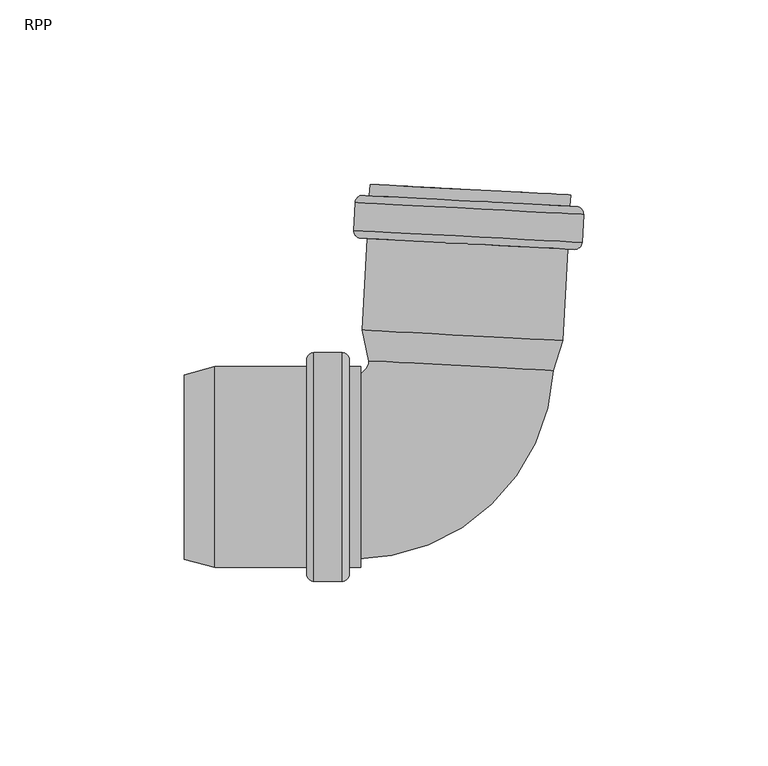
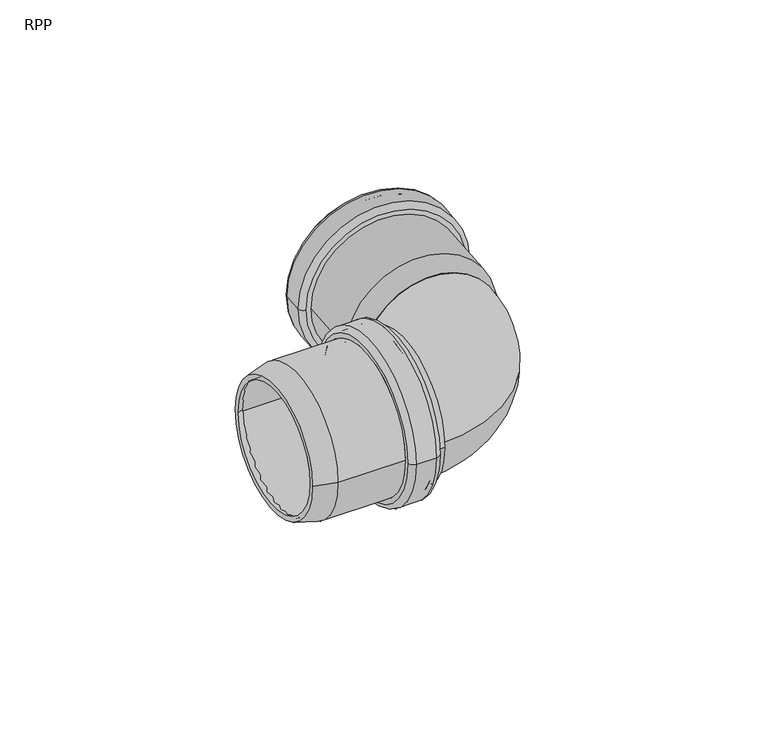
"""IFC4 building model written with IfcOpenShell, lengths in millimetres: pipe fitting geometry, RAUPIANO PLUS Bend : RPP."""

from ifc_helpers import new_model, si_unit, point, frame, origin, place, context, project, spatial, polyline, circle_curve, ellipse_curve, trimmed, source, transform, mapped, element, save
from ifc_brep_helpers import plane_surface, cylinder_surface, revolved_surface, advanced_brep


def rpp_8358bbfe(model_context):
    return source(origin(), model_context, "Body", "AdvancedBrep", [
        advanced_brep(
        [(-38.5199724, -25.3, 0.0), (-38.5199724, 25.3, 0.0), (-65.0593209, 25.3, 0.0), (-65.0593209, -25.3, 0.0), (-38.0199724, -29.1, 0.0), (-38.0199724, 29.1, 0.0), (-38.5199724, 28.6, 0.0), (-38.5199724, -28.6, 0.0), (-31.2199724, -29.1, 0.0), (-31.2199724, 29.1, 0.0), (-30.7199724, -28.6, 0.0), (-30.7199724, 28.6, 0.0), (-25.7199724, -25.3, 0.0), (-25.7199724, 25.3, 0.0), (-30.7199724, 25.3, 0.0), (-30.7199724, -25.3, 0.0), (-28.8199724, -27.2, 0.0), (-28.8199724, 27.2, 0.0), (-25.7199724, 27.2, 0.0), (-25.7199724, -27.2, 0.0), (-30.8199724, -31.0, 0.0), (-30.8199724, 31.0, 0.0), (-28.8199724, 29.0, 0.0), (-28.8199724, -29.0, 0.0), (-38.4199724, -31.0, 0.0), (-38.4199724, 31.0, 0.0), (-40.4199724, -29.0, 0.0), (-40.4199724, 29.0, 0.0), (-65.3094607, -27.2, 0.0), (-65.3094607, 27.2, 0.0), (-40.4199724, 27.2, 0.0), (-40.4199724, -27.2, 0.0), (-73.5199724, -25.0, 0.0), (-73.5199724, 25.0, 0.0), (-73.5199724, 23.0329753, 0.0), (-73.5199724, -23.0329753, 0.0)],
        [
            (0, 1, circle_curve(frame((-38.5199724, 0.0, 0.0), z_axis=(1.0, 0.0, 0.0), x_axis=(0.0, 1.0, 0.0)), 25.3)),
            (1, 2),
            (2, 3, circle_curve(frame((-65.0593209, 0.0, 0.0), z_axis=(-1.0, 0.0, 0.0), x_axis=(0.0, 1.0, 0.0)), 25.3)),
            (3, 0),
            (4, 5, circle_curve(frame((-38.0199724, 0.0, 0.0), z_axis=(1.0, 0.0, 0.0), x_axis=(0.0, 1.0, 0.0)), 29.1)),
            (5, 6, circle_curve(frame((-38.0199724, 28.6, 0.0), z_axis=(0.0, 0.0, 1.0), x_axis=(0.0, -1.0, 0.0)), 0.5)),
            (6, 7, circle_curve(frame((-38.5199724, 0.0, 0.0), z_axis=(-1.0, 0.0, 0.0), x_axis=(0.0, 1.0, 0.0)), 28.6)),
            (7, 4, circle_curve(frame((-38.0199724, -28.6, 0.0), z_axis=(0.0, 0.0, 1.0), x_axis=(0.0, 1.0, 0.0)), 0.5)),
            (8, 9, circle_curve(frame((-31.2199724, 0.0, 0.0), z_axis=(1.0, 0.0, 0.0), x_axis=(0.0, 1.0, 0.0)), 29.1)),
            (9, 5),
            (4, 8),
            (10, 11, circle_curve(frame((-30.7199724, 0.0, 0.0), z_axis=(1.0, 0.0, 0.0), x_axis=(0.0, 1.0, 0.0)), 28.6)),
            (11, 9, circle_curve(frame((-31.2199724, 28.6, 0.0), z_axis=(0.0, 0.0, 1.0), x_axis=(0.0, -1.0, 0.0)), 0.5)),
            (8, 10, circle_curve(frame((-31.2199724, -28.6, 0.0), z_axis=(0.0, 0.0, 1.0), x_axis=(0.0, 1.0, 0.0)), 0.5)),
            (12, 13, circle_curve(frame((-25.7199724, 0.0, 0.0), z_axis=(1.0, 0.0, 0.0), x_axis=(0.0, 1.0, 0.0)), 25.3)),
            (13, 14),
            (14, 15, circle_curve(frame((-30.7199724, 0.0, 0.0), z_axis=(-1.0, 0.0, 0.0), x_axis=(0.0, 1.0, 0.0)), 25.3)),
            (15, 12),
            (16, 17, circle_curve(frame((-28.8199724, 0.0, 0.0), z_axis=(1.0, 0.0, 0.0), x_axis=(0.0, 1.0, 0.0)), 27.2)),
            (17, 18),
            (18, 19, circle_curve(frame((-25.7199724, 0.0, 0.0), z_axis=(-1.0, 0.0, 0.0), x_axis=(0.0, 1.0, 0.0)), 27.2)),
            (19, 16),
            (20, 21, circle_curve(frame((-30.8199724, 0.0, 0.0), z_axis=(1.0, 0.0, 0.0), x_axis=(0.0, 1.0, 0.0)), 31.0)),
            (21, 22, circle_curve(frame((-30.8199724, 29.0, 0.0), z_axis=(0.0, 0.0, -1.0), x_axis=(0.0, -1.0, 0.0)), 2.0)),
            (22, 23, circle_curve(frame((-28.8199724, 0.0, 0.0), z_axis=(-1.0, 0.0, 0.0), x_axis=(0.0, 1.0, 0.0)), 29.0)),
            (23, 20, circle_curve(frame((-30.8199724, -29.0, 0.0), z_axis=(0.0, 0.0, -1.0), x_axis=(0.0, 1.0, 0.0)), 2.0)),
            (24, 25, circle_curve(frame((-38.4199724, 0.0, 0.0), z_axis=(1.0, 0.0, 0.0), x_axis=(0.0, 1.0, 0.0)), 31.0)),
            (25, 21),
            (20, 24),
            (26, 27, circle_curve(frame((-40.4199724, 0.0, 0.0), z_axis=(1.0, 0.0, 0.0), x_axis=(0.0, 1.0, 0.0)), 29.0)),
            (27, 25, circle_curve(frame((-38.4199724, 29.0, 0.0), z_axis=(0.0, 0.0, -1.0), x_axis=(0.0, -1.0, 0.0)), 2.0)),
            (24, 26, circle_curve(frame((-38.4199724, -29.0, 0.0), z_axis=(0.0, 0.0, -1.0), x_axis=(0.0, 1.0, 0.0)), 2.0)),
            (28, 29, circle_curve(frame((-65.3094607, 0.0, 0.0), z_axis=(1.0, 0.0, 0.0), x_axis=(0.0, 1.0, 0.0)), 27.2)),
            (29, 30),
            (30, 31, circle_curve(frame((-40.4199724, 0.0, 0.0), z_axis=(-1.0, 0.0, 0.0), x_axis=(0.0, 1.0, 0.0)), 27.2)),
            (31, 28),
            (32, 33, circle_curve(frame((-73.5199724, 0.0, 0.0), z_axis=(1.0, 0.0, 0.0), x_axis=(0.0, 1.0, 0.0)), 25.0)),
            (33, 29),
            (28, 32),
            (2, 34),
            (34, 35, circle_curve(frame((-73.5199724, 0.0, 0.0), z_axis=(-1.0, 0.0, 0.0), x_axis=(0.0, 1.0, 0.0)), 23.0329753)),
            (35, 3),
            (1, 0, circle_curve(frame((-38.5199724, 0.0, 0.0), z_axis=(1.0, 0.0, 0.0), x_axis=(0.0, -1.0, 0.0)), 25.3)),
            (3, 2, circle_curve(frame((-65.0593209, 0.0, 0.0), z_axis=(-1.0, 0.0, 0.0), x_axis=(0.0, -1.0, 0.0)), 25.3)),
            (6, 7, circle_curve(frame((-38.5199724, 0.0, 0.0), z_axis=(1.0, 0.0, 0.0), x_axis=(0.0, -1.0, 0.0)), 28.6)),
            (5, 4, circle_curve(frame((-38.0199724, 0.0, 0.0), z_axis=(1.0, 0.0, 0.0), x_axis=(0.0, -1.0, 0.0)), 29.1)),
            (9, 8, circle_curve(frame((-31.2199724, 0.0, 0.0), z_axis=(1.0, 0.0, 0.0), x_axis=(0.0, -1.0, 0.0)), 29.1)),
            (11, 10, circle_curve(frame((-30.7199724, 0.0, 0.0), z_axis=(1.0, 0.0, 0.0), x_axis=(0.0, -1.0, 0.0)), 28.6)),
            (14, 15, circle_curve(frame((-30.7199724, 0.0, 0.0), z_axis=(1.0, 0.0, 0.0), x_axis=(0.0, -1.0, 0.0)), 25.3)),
            (13, 12, circle_curve(frame((-25.7199724, 0.0, 0.0), z_axis=(1.0, 0.0, 0.0), x_axis=(0.0, -1.0, 0.0)), 25.3)),
            (18, 19, circle_curve(frame((-25.7199724, 0.0, 0.0), z_axis=(1.0, 0.0, 0.0), x_axis=(0.0, -1.0, 0.0)), 27.2)),
            (17, 16, circle_curve(frame((-28.8199724, 0.0, 0.0), z_axis=(1.0, 0.0, 0.0), x_axis=(0.0, -1.0, 0.0)), 27.2)),
            (22, 23, circle_curve(frame((-28.8199724, 0.0, 0.0), z_axis=(1.0, 0.0, 0.0), x_axis=(0.0, -1.0, 0.0)), 29.0)),
            (21, 20, circle_curve(frame((-30.8199724, 0.0, 0.0), z_axis=(1.0, 0.0, 0.0), x_axis=(0.0, -1.0, 0.0)), 31.0)),
            (25, 24, circle_curve(frame((-38.4199724, 0.0, 0.0), z_axis=(1.0, 0.0, 0.0), x_axis=(0.0, -1.0, 0.0)), 31.0)),
            (27, 26, circle_curve(frame((-40.4199724, 0.0, 0.0), z_axis=(1.0, 0.0, 0.0), x_axis=(0.0, -1.0, 0.0)), 29.0)),
            (30, 31, circle_curve(frame((-40.4199724, 0.0, 0.0), z_axis=(1.0, 0.0, 0.0), x_axis=(0.0, -1.0, 0.0)), 27.2)),
            (29, 28, circle_curve(frame((-65.3094607, 0.0, 0.0), z_axis=(1.0, 0.0, 0.0), x_axis=(0.0, -1.0, 0.0)), 27.2)),
            (33, 32, circle_curve(frame((-73.5199724, 0.0, 0.0), z_axis=(1.0, 0.0, 0.0), x_axis=(0.0, -1.0, 0.0)), 25.0)),
            (34, 35, circle_curve(frame((-73.5199724, 0.0, 0.0), z_axis=(1.0, 0.0, 0.0), x_axis=(0.0, -1.0, 0.0)), 23.0329753)),
        ],
        [
            revolved_surface(polyline([(-65.0593209, 25.3, 0.0), (-38.5199724, 25.3, 0.0)]), (-73.5199724, 0.0, 0.0), (-1.0, 0.0, 0.0)),
            revolved_surface(trimmed(ellipse_curve(frame((-38.0199724, 28.6, 0.0), z_axis=(0.0, 0.0, -1.0), x_axis=(0.0, -1.0, 0.0)), 0.5, 0.5), [point((-38.5199724, 28.6, 0.0))], [point((-38.0199724, 29.1, 0.0))], True, "CARTESIAN"), (-73.5199724, 0.0, 0.0), (-1.0, 0.0, 0.0)),
            revolved_surface(polyline([(-38.0199724, 29.1, 0.0), (-31.219972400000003, 29.1, 0.0)]), (-73.5199724, 0.0, 0.0), (-1.0, 0.0, 0.0)),
            revolved_surface(trimmed(ellipse_curve(frame((-31.2199724, 28.6, 0.0), z_axis=(0.0, 0.0, -1.0), x_axis=(0.0, -1.0, 0.0)), 0.5, 0.5), [point((-31.2199724, 29.1, 0.0))], [point((-30.7199724, 28.6, 0.0))], True, "CARTESIAN"), (-73.5199724, 0.0, 0.0), (-1.0, 0.0, 0.0)),
            revolved_surface(polyline([(-30.719972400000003, 25.3, 0.0), (-25.719972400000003, 25.3, 0.0)]), (-73.5199724, 0.0, 0.0), (-1.0, 0.0, 0.0)),
            cylinder_surface(frame((-73.5199724, 0.0, 0.0), z_axis=(-1.0, 0.0, 0.0), x_axis=(0.0, 1.0, 0.0)), 27.2),
            revolved_surface(trimmed(ellipse_curve(frame((-30.8199724, 29.0, 0.0), z_axis=(0.0, 0.0, 1.0), x_axis=(0.0, -1.0, 0.0)), 2.0, 2.0), [point((-28.8199724, 29.0, 0.0))], [point((-30.8199724, 31.0, 0.0))], True, "CARTESIAN"), (-73.5199724, 0.0, 0.0), (-1.0, 0.0, 0.0)),
            cylinder_surface(frame((-73.5199724, 0.0, 0.0), z_axis=(-1.0, 0.0, 0.0), x_axis=(0.0, 1.0, 0.0)), 31.0),
            revolved_surface(trimmed(ellipse_curve(frame((-38.4199724, 29.0, 0.0), z_axis=(0.0, 0.0, 1.0), x_axis=(0.0, -1.0, 0.0)), 2.0, 2.0), [point((-38.4199724, 31.0, 0.0))], [point((-40.4199724, 29.0, 0.0))], True, "CARTESIAN"), (-73.5199724, 0.0, 0.0), (-1.0, 0.0, 0.0)),
            revolved_surface(polyline([(-65.3094607, 27.2, 0.0), (-73.5199724, 25.0, 0.0)]), (-73.5199724, 0.0, 0.0), (-1.0, 0.0, 0.0)),
            revolved_surface(polyline([(-73.5199724, 23.0329753, 0.0), (-65.0593209, 25.3, 0.0)]), (-73.5199724, 0.0, 0.0), (-1.0, 0.0, 0.0)),
            revolved_surface(polyline([(-65.0593209, -25.3, 0.0), (-38.5199724, -25.3, 0.0)]), (-73.5199724, 0.0, 0.0), (-1.0, 0.0, 0.0)),
            plane_surface(frame((-38.5199724, 0.0, 0.0), z_axis=(1.0, 0.0, 0.0), x_axis=(0.0, -1.0, 0.0))),
            revolved_surface(trimmed(ellipse_curve(frame((-38.0199724, -28.6, 0.0), z_axis=(0.0, 0.0, 1.0), x_axis=(0.0, 1.0, 0.0)), 0.5, 0.5), [point((-38.5199724, -28.6, 0.0))], [point((-38.0199724, -29.1, 0.0))], True, "CARTESIAN"), (-73.5199724, 0.0, 0.0), (-1.0, 0.0, 0.0)),
            revolved_surface(polyline([(-38.0199724, -29.1, 0.0), (-31.219972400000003, -29.1, 0.0)]), (-73.5199724, 0.0, 0.0), (-1.0, 0.0, 0.0)),
            revolved_surface(trimmed(ellipse_curve(frame((-31.2199724, -28.6, 0.0), z_axis=(0.0, 0.0, 1.0), x_axis=(0.0, 1.0, 0.0)), 0.5, 0.5), [point((-31.2199724, -29.1, 0.0))], [point((-30.7199724, -28.6, 0.0))], True, "CARTESIAN"), (-73.5199724, 0.0, 0.0), (-1.0, 0.0, 0.0)),
            plane_surface(frame((-30.7199724, 0.0, 0.0), z_axis=(-1.0, 0.0, 0.0), x_axis=(0.0, -1.0, 0.0))),
            revolved_surface(polyline([(-30.719972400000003, -25.3, 0.0), (-25.719972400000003, -25.3, 0.0)]), (-73.5199724, 0.0, 0.0), (-1.0, 0.0, 0.0)),
            plane_surface(frame((-25.7199724, 0.0, 0.0), z_axis=(1.0, 0.0, 0.0), x_axis=(0.0, -1.0, 0.0))),
            cylinder_surface(frame((-73.5199724, 0.0, 0.0), z_axis=(-1.0, 0.0, 0.0), x_axis=(0.0, -1.0, 0.0)), 27.2),
            plane_surface(frame((-28.8199724, 0.0, 0.0), z_axis=(1.0, 0.0, 0.0), x_axis=(0.0, -1.0, 0.0))),
            revolved_surface(trimmed(ellipse_curve(frame((-30.8199724, -29.0, 0.0), z_axis=(0.0, 0.0, -1.0), x_axis=(0.0, 1.0, 0.0)), 2.0, 2.0), [point((-28.8199724, -29.0, 0.0))], [point((-30.8199724, -31.0, 0.0))], True, "CARTESIAN"), (-73.5199724, 0.0, 0.0), (-1.0, 0.0, 0.0)),
            cylinder_surface(frame((-73.5199724, 0.0, 0.0), z_axis=(-1.0, 0.0, 0.0), x_axis=(0.0, -1.0, 0.0)), 31.0),
            revolved_surface(trimmed(ellipse_curve(frame((-38.4199724, -29.0, 0.0), z_axis=(0.0, 0.0, -1.0), x_axis=(0.0, 1.0, 0.0)), 2.0, 2.0), [point((-38.4199724, -31.0, 0.0))], [point((-40.4199724, -29.0, 0.0))], True, "CARTESIAN"), (-73.5199724, 0.0, 0.0), (-1.0, 0.0, 0.0)),
            plane_surface(frame((-40.4199724, 0.0, 0.0), z_axis=(-1.0, 0.0, 0.0), x_axis=(0.0, -1.0, 0.0))),
            revolved_surface(polyline([(-65.3094607, -27.2, 0.0), (-73.5199724, -25.0, 0.0)]), (-73.5199724, 0.0, 0.0), (-1.0, 0.0, 0.0)),
            plane_surface(frame((-73.5199724, 0.0, 0.0), z_axis=(-1.0, 0.0, 0.0), x_axis=(0.0, -1.0, 0.0))),
            revolved_surface(polyline([(-73.5199724, -23.0329753, 0.0), (-65.0593209, -25.3, 0.0)]), (-73.5199724, 0.0, 0.0), (-1.0, 0.0, 0.0)),
        ],
        [
            (0, [[1, 2, 3, 4]]),
            (1, [[5, 6, 7, 8]]),
            (2, [[9, 10, -5, 11]]),
            (3, [[12, 13, -9, 14]]),
            (4, [[15, 16, 17, 18]]),
            (5, [[19, 20, 21, 22]]),
            (6, [[23, 24, 25, 26]]),
            (7, [[27, 28, -23, 29]]),
            (8, [[30, 31, -27, 32]]),
            (5, [[33, 34, 35, 36]]),
            (9, [[37, 38, -33, 39]]),
            (10, [[-3, 40, 41, 42]]),
            (11, [[43, -4, 44, -2]]),
            (12, [[45, -7], [-43, -1]]),
            (13, [[46, -8, -45, -6]]),
            (14, [[47, -11, -46, -10]]),
            (15, [[48, -14, -47, -13]]),
            (16, [[-48, -12], [49, -17]]),
            (17, [[50, -18, -49, -16]]),
            (18, [[51, -21], [-50, -15]]),
            (19, [[52, -22, -51, -20]]),
            (20, [[53, -25], [-52, -19]]),
            (21, [[54, -26, -53, -24]]),
            (22, [[55, -29, -54, -28]]),
            (23, [[56, -32, -55, -31]]),
            (24, [[-56, -30], [57, -35]]),
            (19, [[58, -36, -57, -34]]),
            (25, [[59, -39, -58, -38]]),
            (26, [[-59, -37], [60, -41]]),
            (27, [[-44, -42, -60, -40]]),
        ],
    ),
        advanced_brep(
        [(24.4416934, 26.2768045, 0.0), (-21.5611253, 28.6877101, 0.0), (-23.3822469, 37.2554135, 0.0), (27.1484076, 34.6072141, 0.0), (29.0327124, 34.2579788, 0.0), (-25.2927343, 37.1050548, 0.0), (-23.5254543, 28.7906562, 0.0), (26.4060224, 26.1738584, 0.0), (30.3353276, 59.1133569, 0.0), (-23.9901191, 61.9604329, 0.0), (34.632545, 68.5013238, 0.0), (-27.2824862, 71.746153, 0.0), (-27.6802394, 64.1565686, 0.0), (34.2347917, 60.9117393, 0.0), (31.1046661, 73.793211, 0.0), (-23.2207806, 76.640287, 0.0), (-23.383022, 73.5445355, 0.0), (30.9424247, 70.6974595, 0.0), (28.9455902, 68.8995017, 0.0), (-21.5850642, 71.547701, 0.0), (-21.3233844, 76.5408487, 0.0), (29.20727, 73.8926493, 0.0), (32.35833, 61.4106294, 0.0), (-25.7619089, 64.4565821, 0.0), (-25.4060244, 71.2472629, 0.0), (32.7142145, 68.2013103, 0.0), (-21.9932847, 63.7583907, 0.0), (28.5373698, 61.1101913, 0.0), (-25.7876523, 62.0546376, 0.0), (32.1328607, 59.0191521, 0.0), (32.7399578, 70.6032547, 0.0), (-25.1805552, 73.6387402, 0.0), (-24.8805417, 71.7204097, 0.0), (32.2410677, 68.726793, 0.0), (31.8328472, 60.9374826, 0.0), (-25.2887622, 63.9310993, 0.0)],
        [
            (0, 1, circle_curve(frame((1.4402841, 27.4822573, 0.0), z_axis=(-0.05233595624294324, -0.9986295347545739, 0.0), x_axis=(-0.9986295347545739, 0.05233595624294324, 0.0)), 23.0329753)),
            (1, 2),
            (2, 3, circle_curve(frame((1.8830804, 35.9313138, 0.0), z_axis=(0.05233595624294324, 0.9986295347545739, 0.0), x_axis=(-0.9986295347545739, 0.05233595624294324, 0.0)), 25.3)),
            (3, 0),
            (4, 5, circle_curve(frame((1.8699891, 35.6815168, 0.0), z_axis=(-0.05233595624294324, -0.9986295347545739, 0.0), x_axis=(-0.9986295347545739, 0.05233595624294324, 0.0)), 27.2)),
            (5, 6),
            (6, 7, circle_curve(frame((1.4402841, 27.4822573, 0.0), z_axis=(0.05233595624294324, 0.9986295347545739, 0.0), x_axis=(-0.9986295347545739, 0.05233595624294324, 0.0)), 25.0)),
            (7, 4),
            (8, 9, circle_curve(frame((3.1726042, 60.5368949, 0.0), z_axis=(-0.05233595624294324, -0.9986295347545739, 0.0), x_axis=(-0.9986295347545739, 0.05233595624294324, 0.0)), 27.2)),
            (9, 5),
            (4, 8),
            (10, 11, circle_curve(frame((3.6750294, 70.1237384, 0.0), z_axis=(-0.05233595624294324, -0.9986295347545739, 0.0), x_axis=(-0.9986295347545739, 0.05233595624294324, 0.0)), 31.0)),
            (11, 12),
            (12, 13, circle_curve(frame((3.2772761, 62.5341539, 0.0), z_axis=(0.05233595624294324, 0.9986295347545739, 0.0), x_axis=(-0.9986295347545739, 0.05233595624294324, 0.0)), 31.0)),
            (13, 10),
            (14, 15, circle_curve(frame((3.9419428, 75.216749, 0.0), z_axis=(-0.05233595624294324, -0.9986295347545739, 0.0), x_axis=(-0.9986295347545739, 0.05233595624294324, 0.0)), 27.2)),
            (15, 16),
            (16, 17, circle_curve(frame((3.7797013, 72.1209975, 0.0), z_axis=(0.05233595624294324, 0.9986295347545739, 0.0), x_axis=(-0.9986295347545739, 0.05233595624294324, 0.0)), 27.2)),
            (17, 14),
            (18, 19, circle_curve(frame((3.680263, 70.2236014, 0.0), z_axis=(-0.05233595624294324, -0.9986295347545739, 0.0), x_axis=(-0.9986295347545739, 0.05233595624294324, 0.0)), 25.3)),
            (19, 20),
            (20, 21, circle_curve(frame((3.9419428, 75.216749, 0.0), z_axis=(0.05233595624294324, 0.9986295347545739, 0.0), x_axis=(-0.9986295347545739, 0.05233595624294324, 0.0)), 25.3)),
            (21, 18),
            (22, 23, circle_curve(frame((3.2982105, 62.9336058, 0.0), z_axis=(-0.05233595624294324, -0.9986295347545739, 0.0), x_axis=(-0.9986295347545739, 0.05233595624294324, 0.0)), 29.1)),
            (23, 24),
            (24, 25, circle_curve(frame((3.654095, 69.7242866, 0.0), z_axis=(0.05233595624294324, 0.9986295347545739, 0.0), x_axis=(-0.9986295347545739, 0.05233595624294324, 0.0)), 29.1)),
            (25, 22),
            (2, 26),
            (26, 27, circle_curve(frame((3.2720425, 62.434291, 0.0), z_axis=(0.05233595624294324, 0.9986295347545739, 0.0), x_axis=(-0.9986295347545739, 0.05233595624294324, 0.0)), 25.3)),
            (27, 3),
            (1, 0, circle_curve(frame((1.4402841, 27.4822573, 0.0), z_axis=(-0.05233595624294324, -0.9986295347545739, 0.0), x_axis=(0.9986295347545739, -0.05233595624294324, 0.0)), 23.0329753)),
            (3, 2, circle_curve(frame((1.8830804, 35.9313138, 0.0), z_axis=(0.05233595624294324, 0.9986295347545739, 0.0), x_axis=(0.9986295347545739, -0.05233595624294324, 0.0)), 25.3)),
            (6, 7, circle_curve(frame((1.4402841, 27.4822573, 0.0), z_axis=(-0.05233595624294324, -0.9986295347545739, 0.0), x_axis=(0.9986295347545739, -0.05233595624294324, 0.0)), 25.0)),
            (5, 4, circle_curve(frame((1.8699891, 35.6815168, 0.0), z_axis=(-0.05233595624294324, -0.9986295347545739, 0.0), x_axis=(0.9986295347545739, -0.05233595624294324, 0.0)), 27.2)),
            (9, 8, circle_curve(frame((3.1726042, 60.5368949, 0.0), z_axis=(-0.05233595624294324, -0.9986295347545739, 0.0), x_axis=(0.9986295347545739, -0.05233595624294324, 0.0)), 27.2)),
            (28, 29, circle_curve(frame((3.1726042, 60.5368949, 0.0), z_axis=(-0.05233595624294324, -0.9986295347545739, 0.0), x_axis=(0.9986295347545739, -0.05233595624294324, 0.0)), 29.0)),
            (29, 28, circle_curve(frame((3.1726042, 60.5368949, 0.0), z_axis=(-0.05233595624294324, -0.9986295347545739, 0.0), x_axis=(-0.9986295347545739, 0.05233595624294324, 0.0)), 29.0)),
            (11, 10, circle_curve(frame((3.6750294, 70.1237384, 0.0), z_axis=(-0.05233595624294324, -0.9986295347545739, 0.0), x_axis=(0.9986295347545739, -0.05233595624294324, 0.0)), 31.0)),
            (13, 12, circle_curve(frame((3.2772761, 62.5341539, 0.0), z_axis=(0.05233595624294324, 0.9986295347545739, 0.0), x_axis=(0.9986295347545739, -0.05233595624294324, 0.0)), 31.0)),
            (30, 31, circle_curve(frame((3.7797013, 72.1209975, 0.0), z_axis=(0.05233595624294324, 0.9986295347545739, 0.0), x_axis=(0.9986295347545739, -0.05233595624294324, 0.0)), 29.0)),
            (31, 30, circle_curve(frame((3.7797013, 72.1209975, 0.0), z_axis=(0.05233595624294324, 0.9986295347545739, 0.0), x_axis=(-0.9986295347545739, 0.05233595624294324, 0.0)), 29.0)),
            (16, 17, circle_curve(frame((3.7797013, 72.1209975, 0.0), z_axis=(-0.05233595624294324, -0.9986295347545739, 0.0), x_axis=(0.9986295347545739, -0.05233595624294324, 0.0)), 27.2)),
            (15, 14, circle_curve(frame((3.9419428, 75.216749, 0.0), z_axis=(-0.05233595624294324, -0.9986295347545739, 0.0), x_axis=(0.9986295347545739, -0.05233595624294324, 0.0)), 27.2)),
            (20, 21, circle_curve(frame((3.9419428, 75.216749, 0.0), z_axis=(-0.05233595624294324, -0.9986295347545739, 0.0), x_axis=(0.9986295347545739, -0.05233595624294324, 0.0)), 25.3)),
            (19, 18, circle_curve(frame((3.680263, 70.2236014, 0.0), z_axis=(-0.05233595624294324, -0.9986295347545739, 0.0), x_axis=(0.9986295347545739, -0.05233595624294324, 0.0)), 25.3)),
            (32, 33, circle_curve(frame((3.680263, 70.2236014, 0.0), z_axis=(-0.05233595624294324, -0.9986295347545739, 0.0), x_axis=(0.9986295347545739, -0.05233595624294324, 0.0)), 28.6)),
            (33, 32, circle_curve(frame((3.680263, 70.2236014, 0.0), z_axis=(-0.05233595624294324, -0.9986295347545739, 0.0), x_axis=(-0.9986295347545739, 0.05233595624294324, 0.0)), 28.6)),
            (23, 22, circle_curve(frame((3.2982105, 62.9336058, 0.0), z_axis=(-0.05233595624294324, -0.9986295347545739, 0.0), x_axis=(0.9986295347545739, -0.05233595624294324, 0.0)), 29.1)),
            (25, 24, circle_curve(frame((3.654095, 69.7242866, 0.0), z_axis=(0.05233595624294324, 0.9986295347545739, 0.0), x_axis=(0.9986295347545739, -0.05233595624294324, 0.0)), 29.1)),
            (34, 35, circle_curve(frame((3.2720425, 62.434291, 0.0), z_axis=(0.05233595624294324, 0.9986295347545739, 0.0), x_axis=(0.9986295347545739, -0.05233595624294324, 0.0)), 28.6)),
            (35, 34, circle_curve(frame((3.2720425, 62.434291, 0.0), z_axis=(0.05233595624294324, 0.9986295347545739, 0.0), x_axis=(-0.9986295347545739, 0.05233595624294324, 0.0)), 28.6)),
            (26, 27, circle_curve(frame((3.2720425, 62.434291, 0.0), z_axis=(-0.05233595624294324, -0.9986295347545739, 0.0), x_axis=(0.9986295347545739, -0.05233595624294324, 0.0)), 25.3)),
            (12, 28, circle_curve(frame((-25.6829804, 64.0518967, 0.0), z_axis=(0.0, 0.0, 1.0), x_axis=(0.9986295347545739, -0.05233595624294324, 0.0)), 2.0)),
            (29, 13, circle_curve(frame((32.2375326, 61.0164112, 0.0), z_axis=(0.0, 0.0, 1.0), x_axis=(-0.9986295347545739, 0.05233595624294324, 0.0)), 2.0)),
            (31, 11, circle_curve(frame((-25.2852271, 71.6414811, 0.0), z_axis=(0.0, 0.0, 1.0), x_axis=(0.9986295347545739, -0.05233595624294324, 0.0)), 2.0)),
            (10, 30, circle_curve(frame((32.6352859, 68.6059957, 0.0), z_axis=(0.0, 0.0, 1.0), x_axis=(-0.9986295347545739, 0.05233595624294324, 0.0)), 2.0)),
            (24, 32, circle_curve(frame((-24.9067097, 71.2210949, 0.0), z_axis=(0.0, 0.0, -1.0), x_axis=(0.9986295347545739, -0.05233595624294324, 0.0)), 0.5)),
            (33, 25, circle_curve(frame((32.2148997, 68.2274782, 0.0), z_axis=(0.0, 0.0, -1.0), x_axis=(-0.9986295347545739, 0.05233595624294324, 0.0)), 0.5)),
            (35, 23, circle_curve(frame((-25.2625942, 64.4304141, 0.0), z_axis=(0.0, 0.0, -1.0), x_axis=(0.9986295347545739, -0.05233595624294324, 0.0)), 0.5)),
            (22, 34, circle_curve(frame((31.8590152, 61.4367974, 0.0), z_axis=(0.0, 0.0, -1.0), x_axis=(-0.9986295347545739, 0.05233595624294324, 0.0)), 0.5)),
        ],
        [
            revolved_surface(polyline([(-23.3822469, 37.2554135, 0.0), (-21.5611253, 28.6877101, 0.0)]), (1.4402841, 27.4822573, 0.0), (0.05233595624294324, 0.9986295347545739, 0.0)),
            revolved_surface(polyline([(-23.5254543, 28.7906562, 0.0), (-25.2927343, 37.1050548, 0.0)]), (1.4402841, 27.4822573, 0.0), (0.05233595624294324, 0.9986295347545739, 0.0)),
            cylinder_surface(frame((1.4402841, 27.4822573, 0.0), z_axis=(0.05233595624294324, 0.9986295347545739, 0.0), x_axis=(-0.9986295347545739, 0.05233595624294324, 0.0)), 27.2),
            cylinder_surface(frame((1.4402841, 27.4822573, 0.0), z_axis=(0.05233595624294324, 0.9986295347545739, 0.0), x_axis=(-0.9986295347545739, 0.05233595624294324, 0.0)), 31.0),
            revolved_surface(polyline([(-21.32338442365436, 76.54084870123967, 0.0), (-21.58506420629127, 71.54770100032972, 0.0)]), (1.4402841, 27.4822573, 0.0), (0.05233595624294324, 0.9986295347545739, 0.0)),
            revolved_surface(polyline([(-25.406024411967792, 71.247262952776, 0.0), (-25.761908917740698, 64.45658205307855, 0.0)]), (1.4402841, 27.4822573, 0.0), (0.05233595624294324, 0.9986295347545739, 0.0)),
            revolved_surface(polyline([(-21.993284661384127, 63.758390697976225, 0.0), (-23.382246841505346, 37.25541348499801, 0.0)]), (1.4402841, 27.4822573, 0.0), (0.05233595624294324, 0.9986295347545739, 0.0)),
            revolved_surface(polyline([(27.1484076, 34.6072141, 0.0), (24.4416934, 26.2768045, 0.0)]), (1.4402841, 27.4822573, 0.0), (0.05233595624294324, 0.9986295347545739, 0.0)),
            plane_surface(frame((1.4402841, 27.4822573, 0.0), z_axis=(-0.05233595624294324, -0.9986295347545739, 0.0), x_axis=(0.9986295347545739, -0.05233595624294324, 0.0))),
            revolved_surface(polyline([(26.4060224, 26.1738584, 0.0), (29.0327124, 34.2579788, 0.0)]), (1.4402841, 27.4822573, 0.0), (0.05233595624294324, 0.9986295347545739, 0.0)),
            cylinder_surface(frame((1.4402841, 27.4822573, 0.0), z_axis=(0.05233595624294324, 0.9986295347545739, 0.0), x_axis=(0.9986295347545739, -0.05233595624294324, 0.0)), 27.2),
            plane_surface(frame((3.1726042, 60.5368949, 0.0), z_axis=(-0.05233595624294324, -0.9986295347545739, 0.0), x_axis=(0.9986295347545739, -0.05233595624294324, 0.0))),
            cylinder_surface(frame((1.4402841, 27.4822573, 0.0), z_axis=(0.05233595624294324, 0.9986295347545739, 0.0), x_axis=(0.9986295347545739, -0.05233595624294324, 0.0)), 31.0),
            plane_surface(frame((3.7797013, 72.1209975, 0.0), z_axis=(0.05233595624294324, 0.9986295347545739, 0.0), x_axis=(0.9986295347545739, -0.05233595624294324, 0.0))),
            plane_surface(frame((3.9419428, 75.216749, 0.0), z_axis=(0.05233595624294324, 0.9986295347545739, 0.0), x_axis=(0.9986295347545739, -0.05233595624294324, 0.0))),
            revolved_surface(polyline([(29.207270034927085, 73.89264931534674, 0.0), (28.945590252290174, 68.89950161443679, 0.0)]), (1.4402841, 27.4822573, 0.0), (0.05233595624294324, 0.9986295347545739, 0.0)),
            plane_surface(frame((3.680263, 70.2236014, 0.0), z_axis=(-0.05233595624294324, -0.9986295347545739, 0.0), x_axis=(0.9986295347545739, -0.05233595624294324, 0.0))),
            revolved_surface(polyline([(32.71421451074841, 68.2013102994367, 0.0), (32.35833000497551, 61.41062939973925, 0.0)]), (1.4402841, 27.4822573, 0.0), (0.05233595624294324, 0.9986295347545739, 0.0)),
            plane_surface(frame((3.2720425, 62.434291, 0.0), z_axis=(0.05233595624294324, 0.9986295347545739, 0.0), x_axis=(0.9986295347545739, -0.05233595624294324, 0.0))),
            revolved_surface(polyline([(28.537369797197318, 61.1101913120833, 0.0), (27.1484076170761, 34.60721409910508, 0.0)]), (1.4402841, 27.4822573, 0.0), (0.05233595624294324, 0.9986295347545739, 0.0)),
            revolved_surface(trimmed(ellipse_curve(frame((-25.6829804, 64.0518967, 0.0), z_axis=(0.0, 0.0, -1.0), x_axis=(0.9986295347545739, -0.05233595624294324, 0.0)), 2.0, 2.0), [point((-25.7876523, 62.0546376, 0.0))], [point((-27.6802394, 64.1565686, 0.0))], True, "CARTESIAN"), (1.4402841, 27.4822573, 0.0), (0.05233595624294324, 0.9986295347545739, 0.0)),
            revolved_surface(trimmed(ellipse_curve(frame((-25.2852271, 71.6414811, 0.0), z_axis=(0.0, 0.0, -1.0), x_axis=(0.9986295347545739, -0.05233595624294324, 0.0)), 2.0, 2.0), [point((-27.2824862, 71.746153, 0.0))], [point((-25.1805552, 73.6387402, 0.0))], True, "CARTESIAN"), (1.4402841, 27.4822573, 0.0), (0.05233595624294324, 0.9986295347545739, 0.0)),
            revolved_surface(trimmed(ellipse_curve(frame((-24.9067097, 71.2210949, 0.0), z_axis=(0.0, 0.0, 1.0), x_axis=(0.9986295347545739, -0.05233595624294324, 0.0)), 0.5, 0.5), [point((-24.8805417, 71.7204097, 0.0))], [point((-25.4060244, 71.2472629, 0.0))], True, "CARTESIAN"), (1.4402841, 27.4822573, 0.0), (0.05233595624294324, 0.9986295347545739, 0.0)),
            revolved_surface(trimmed(ellipse_curve(frame((-25.2625942, 64.4304141, 0.0), z_axis=(0.0, 0.0, 1.0), x_axis=(0.9986295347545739, -0.05233595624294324, 0.0)), 0.5, 0.5), [point((-25.7619089, 64.4565821, 0.0))], [point((-25.2887622, 63.9310993, 0.0))], True, "CARTESIAN"), (1.4402841, 27.4822573, 0.0), (0.05233595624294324, 0.9986295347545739, 0.0)),
            revolved_surface(trimmed(ellipse_curve(frame((32.2375326, 61.0164112, 0.0), z_axis=(0.0, 0.0, 1.0), x_axis=(-0.9986295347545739, 0.05233595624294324, 0.0)), 2.0, 2.0), [point((32.1328607, 59.0191521, 0.0))], [point((34.2347917, 60.9117393, 0.0))], True, "CARTESIAN"), (1.4402841, 27.4822573, 0.0), (0.05233595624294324, 0.9986295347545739, 0.0)),
            revolved_surface(trimmed(ellipse_curve(frame((32.6352859, 68.6059957, 0.0), z_axis=(0.0, 0.0, 1.0), x_axis=(-0.9986295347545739, 0.05233595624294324, 0.0)), 2.0, 2.0), [point((34.632545, 68.5013238, 0.0))], [point((32.7399578, 70.6032547, 0.0))], True, "CARTESIAN"), (1.4402841, 27.4822573, 0.0), (0.05233595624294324, 0.9986295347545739, 0.0)),
            revolved_surface(trimmed(ellipse_curve(frame((32.2148997, 68.2274782, 0.0), z_axis=(0.0, 0.0, -1.0), x_axis=(-0.9986295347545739, 0.05233595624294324, 0.0)), 0.5, 0.5), [point((32.2410677, 68.726793, 0.0))], [point((32.7142145, 68.2013103, 0.0))], True, "CARTESIAN"), (1.4402841, 27.4822573, 0.0), (0.05233595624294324, 0.9986295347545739, 0.0)),
            revolved_surface(trimmed(ellipse_curve(frame((31.8590152, 61.4367974, 0.0), z_axis=(0.0, 0.0, -1.0), x_axis=(-0.9986295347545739, 0.05233595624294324, 0.0)), 0.5, 0.5), [point((32.35833, 61.4106294, 0.0))], [point((31.8328472, 60.9374826, 0.0))], True, "CARTESIAN"), (1.4402841, 27.4822573, 0.0), (0.05233595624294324, 0.9986295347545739, 0.0)),
        ],
        [
            (0, [[1, 2, 3, 4]]),
            (1, [[5, 6, 7, 8]]),
            (2, [[9, 10, -5, 11]]),
            (3, [[12, 13, 14, 15]]),
            (2, [[16, 17, 18, 19]]),
            (4, [[20, 21, 22, 23]]),
            (5, [[24, 25, 26, 27]]),
            (6, [[-3, 28, 29, 30]]),
            (7, [[31, -4, 32, -2]]),
            (8, [[33, -7], [-31, -1]]),
            (9, [[34, -8, -33, -6]]),
            (10, [[35, -11, -34, -10]]),
            (11, [[36, 37], [-35, -9]]),
            (12, [[38, -15, 39, -13]]),
            (13, [[40, 41], [42, -18]]),
            (10, [[43, -19, -42, -17]]),
            (14, [[-43, -16], [44, -22]]),
            (15, [[45, -23, -44, -21]]),
            (16, [[46, 47], [-45, -20]]),
            (17, [[48, -27, 49, -25]]),
            (18, [[50, 51], [52, -29]]),
            (19, [[-32, -30, -52, -28]]),
            (20, [[-14, 53, -37, 54]]),
            (21, [[-41, 55, -12, 56]]),
            (22, [[-26, 57, -47, 58]]),
            (23, [[-51, 59, -24, 60]]),
            (24, [[-39, -54, -36, -53]]),
            (25, [[-40, -56, -38, -55]]),
            (26, [[-49, -58, -46, -57]]),
            (27, [[-50, -60, -48, -59]]),
        ],
    ),
        advanced_brep(
        [(-27.5199724, 23.2, 0.0), (-27.5199724, -23.2, 0.0), (-73.5199724, -23.2, 0.0), (-73.5199724, 23.2, 0.0), (-69.7879216, 25.0, 0.0), (-69.7879216, -25.0, 0.0), (-27.5199724, -25.0, 0.0), (-27.5199724, 25.0, 0.0), (-73.5199724, 24.0, 0.0), (-73.5199724, -24.0, 0.0)],
        [
            (0, 1, circle_curve(frame((-27.5199724, 0.0, 0.0), z_axis=(1.0, 0.0, 0.0), x_axis=(0.0, -1.0, 0.0)), 23.2)),
            (1, 2),
            (2, 3, circle_curve(frame((-73.5199724, 0.0, 0.0), z_axis=(-1.0, 0.0, 0.0), x_axis=(0.0, -1.0, 0.0)), 23.2)),
            (3, 0),
            (4, 5, circle_curve(frame((-69.7879216, 0.0, 0.0), z_axis=(1.0, 0.0, 0.0), x_axis=(0.0, -1.0, 0.0)), 25.0)),
            (5, 6),
            (6, 7, circle_curve(frame((-27.5199724, 0.0, 0.0), z_axis=(-1.0, 0.0, 0.0), x_axis=(0.0, -1.0, 0.0)), 25.0)),
            (7, 4),
            (8, 9, circle_curve(frame((-73.5199724, 0.0, 0.0), z_axis=(1.0, 0.0, 0.0), x_axis=(0.0, -1.0, 0.0)), 24.0)),
            (9, 5),
            (4, 8),
            (1, 0, circle_curve(frame((-27.5199724, 0.0, 0.0), z_axis=(1.0, 0.0, 0.0), x_axis=(0.0, 1.0, 0.0)), 23.2)),
            (3, 2, circle_curve(frame((-73.5199724, 0.0, 0.0), z_axis=(-1.0, 0.0, 0.0), x_axis=(0.0, 1.0, 0.0)), 23.2)),
            (6, 7, circle_curve(frame((-27.5199724, 0.0, 0.0), z_axis=(1.0, 0.0, 0.0), x_axis=(0.0, 1.0, 0.0)), 25.0)),
            (5, 4, circle_curve(frame((-69.7879216, 0.0, 0.0), z_axis=(1.0, 0.0, 0.0), x_axis=(0.0, 1.0, 0.0)), 25.0)),
            (9, 8, circle_curve(frame((-73.5199724, 0.0, 0.0), z_axis=(1.0, 0.0, 0.0), x_axis=(0.0, 1.0, 0.0)), 24.0)),
        ],
        [
            revolved_surface(polyline([(-73.5199724, -23.2, 0.0), (-27.5199724, -23.2, 0.0)]), (-27.5199724, 0.0, 0.0), (-1.0, 0.0, 0.0)),
            cylinder_surface(frame((-27.5199724, 0.0, 0.0), z_axis=(-1.0, 0.0, 0.0), x_axis=(0.0, -1.0, 0.0)), 25.0),
            revolved_surface(polyline([(-69.7879216, -25.0, 0.0), (-73.5199724, -24.0, 0.0)]), (-27.5199724, 0.0, 0.0), (-1.0, 0.0, 0.0)),
            revolved_surface(polyline([(-73.5199724, 23.2, 0.0), (-27.5199724, 23.2, 0.0)]), (-27.5199724, 0.0, 0.0), (-1.0, 0.0, 0.0)),
            plane_surface(frame((-27.5199724, 0.0, 0.0), z_axis=(1.0, 0.0, 0.0), x_axis=(0.0, 1.0, 0.0))),
            cylinder_surface(frame((-27.5199724, 0.0, 0.0), z_axis=(-1.0, 0.0, 0.0), x_axis=(0.0, 1.0, 0.0)), 25.0),
            revolved_surface(polyline([(-69.7879216, 25.0, 0.0), (-73.5199724, 24.0, 0.0)]), (-27.5199724, 0.0, 0.0), (-1.0, 0.0, 0.0)),
            plane_surface(frame((-73.5199724, 0.0, 0.0), z_axis=(-1.0, 0.0, 0.0), x_axis=(0.0, 1.0, 0.0))),
        ],
        [
            (0, [[1, 2, 3, 4]]),
            (1, [[5, 6, 7, 8]]),
            (2, [[9, 10, -5, 11]]),
            (3, [[12, -4, 13, -2]]),
            (4, [[14, -7], [-12, -1]]),
            (5, [[15, -8, -14, -6]]),
            (6, [[16, -11, -15, -10]]),
            (7, [[-16, -9], [-13, -3]]),
        ],
    ),
        advanced_brep(
        [(-27.5199724, -25.0, 0.0), (-27.5199724, 25.0, 0.0), (-27.5199724, -23.2, 0.0), (-27.5199724, 23.2, 0.0), (26.4060224, 26.1738584, 0.0), (-23.5254543, 28.7906562, 0.0), (24.6084893, 26.2680631, 0.0), (-21.7279211, 28.6964515, 0.0)],
        [
            (0, 1, circle_curve(frame((-27.5199724, 0.0, 0.0), z_axis=(-1.0, 0.0, 0.0), x_axis=(0.0, 1.0, 0.0)), 25.0)),
            (1, 0, circle_curve(frame((-27.5199724, 0.0, 0.0), z_axis=(-1.0, 0.0, 0.0), x_axis=(0.0, 1.0, 0.0)), 25.0)),
            (2, 3, circle_curve(frame((-27.5199724, 0.0, 0.0), z_axis=(1.0, 0.0, 0.0), x_axis=(0.0, 1.0, 0.0)), 23.2)),
            (3, 2, circle_curve(frame((-27.5199724, 0.0, 0.0), z_axis=(1.0, 0.0, 0.0), x_axis=(0.0, 1.0, 0.0)), 23.2)),
            (4, 5, circle_curve(frame((1.4402841, 27.4822573, 0.0), z_axis=(0.05233595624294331, 0.9986295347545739, 0.0), x_axis=(-0.9986295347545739, 0.05233595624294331, 0.0)), 25.0)),
            (5, 4, circle_curve(frame((1.4402841, 27.4822573, 0.0), z_axis=(0.05233595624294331, 0.9986295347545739, 0.0), x_axis=(-0.9986295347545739, 0.05233595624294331, 0.0)), 25.0)),
            (6, 7, circle_curve(frame((1.4402841, 27.4822573, 0.0), z_axis=(-0.05233595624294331, -0.9986295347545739, 0.0), x_axis=(-0.9986295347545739, 0.05233595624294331, 0.0)), 23.2)),
            (7, 6, circle_curve(frame((1.4402841, 27.4822573, 0.0), z_axis=(-0.05233595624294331, -0.9986295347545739, 0.0), x_axis=(-0.9986295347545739, 0.05233595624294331, 0.0)), 23.2)),
            (7, 3, circle_curve(frame((-27.5199724, 29.0, 0.0), z_axis=(0.0, 0.0, -1.0), x_axis=(0.0, -1.0, 0.0)), 5.8)),
            (2, 6, circle_curve(frame((-27.5199724, 29.0, 0.0), z_axis=(0.0, 0.0, 1.0), x_axis=(0.0, -1.0, 0.0)), 52.2)),
            (5, 1, circle_curve(frame((-27.5199724, 29.0, 0.0), z_axis=(0.0, 0.0, -1.0), x_axis=(0.0, -1.0, 0.0)), 4.0)),
            (0, 4, circle_curve(frame((-27.5199724, 29.0, 0.0), z_axis=(0.0, 0.0, 1.0), x_axis=(0.0, -1.0, 0.0)), 54.0)),
        ],
        [
            plane_surface(frame((-27.5199724, 0.0, 0.0), z_axis=(-1.0, 0.0, 0.0), x_axis=(0.0, 0.0, 1.0))),
            plane_surface(frame((1.4402841, 27.4822573, 0.0), z_axis=(0.05233595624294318, 0.9986295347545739, 0.0), x_axis=(0.0, 0.0, 1.0))),
            revolved_surface(trimmed(ellipse_curve(frame((-27.5199724, 0.0, 0.0), z_axis=(1.0, 0.0, 0.0), x_axis=(0.0, 1.0, 0.0)), 23.2, 23.2), [point((-27.5199724, -23.2, 0.0))], [point((-27.5199724, 23.2, 0.0))], True, "CARTESIAN"), (-27.5199724, 29.0, 0.0), (0.0, 0.0, 1.0)),
            revolved_surface(trimmed(ellipse_curve(frame((-27.5199724, 0.0, 0.0), z_axis=(1.0, 0.0, 0.0), x_axis=(0.0, 1.0, 0.0)), 23.2, 23.2), [point((-27.5199724, 23.2, 0.0))], [point((-27.5199724, -23.2, 0.0))], True, "CARTESIAN"), (-27.5199724, 29.0, 0.0), (0.0, 0.0, 1.0)),
            revolved_surface(trimmed(ellipse_curve(frame((-27.5199724, 0.0, 0.0), z_axis=(-1.0, 0.0, 0.0), x_axis=(0.0, 1.0, 0.0)), 25.0, 25.0), [point((-27.5199724, -25.0, 0.0))], [point((-27.5199724, 25.0, 0.0))], True, "CARTESIAN"), (-27.5199724, 29.0, 0.0), (0.0, 0.0, 1.0)),
            revolved_surface(trimmed(ellipse_curve(frame((-27.5199724, 0.0, 0.0), z_axis=(-1.0, 0.0, 0.0), x_axis=(0.0, 1.0, 0.0)), 25.0, 25.0), [point((-27.5199724, 25.0, 0.0))], [point((-27.5199724, -25.0, 0.0))], True, "CARTESIAN"), (-27.5199724, 29.0, 0.0), (0.0, 0.0, 1.0)),
        ],
        [
            (0, [[1, 2], [3, 4]]),
            (1, [[5, 6], [7, 8]]),
            (2, [[9, -3, 10, -8]]),
            (3, [[-10, -4, -9, -7]]),
            (4, [[11, -1, 12, -6]]),
            (5, [[-12, -2, -11, -5]]),
        ],
    ),
    ])


if __name__ == "__main__":
    model = new_model("IFC4")
    model_context = context("Model", 3, world=origin())
    ifc_project = project(units=[si_unit("LENGTHUNIT", "METRE", prefix="MILLI")], contexts=[model_context])
    site = spatial("IfcSite", under=ifc_project)
    building = spatial("IfcBuilding", under=site)
    placement = place(None, origin())
    rpp_shape = rpp_8358bbfe(model_context)
    element("IfcPipeFitting", 1, ObjectType="RAUPIANO PLUS Bend : RPP", at=placement, inside=building, context=model_context, shape_type="MappedRepresentation", body=[
        mapped(rpp_shape, transform((0.0, 0.0, 0.0), x_axis=(1.0, 0.0, 0.0), y_axis=(0.0, 1.0, 0.0), z_axis=(0.0, 0.0, 1.0))),
    ])
    save(model, "model.ifc")
